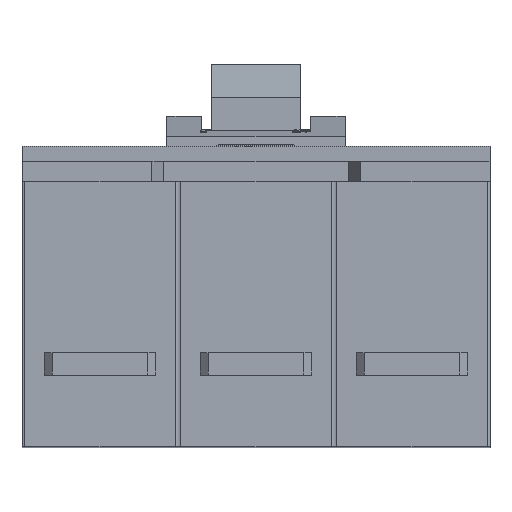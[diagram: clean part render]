
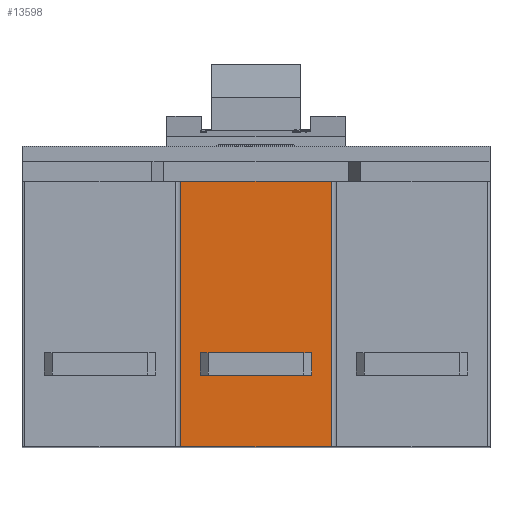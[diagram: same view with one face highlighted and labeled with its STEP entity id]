
A CAD part, top view. The second image highlights one B-rep face of the part: STEP entity #13598.
In plain terms, the highlighted planar face has unit normal (0, 0, 1).
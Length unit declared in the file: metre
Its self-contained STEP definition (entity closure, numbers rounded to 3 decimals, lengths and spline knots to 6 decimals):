
#202=FACE_BOUND('',#2001,.T.);
#1157=FACE_OUTER_BOUND('',#2000,.T.);
#2000=EDGE_LOOP('',(#12065,#12066,#12067,#12068));
#2001=EDGE_LOOP('',(#12069,#12070,#12071,#12072));
#3612=LINE('',#21678,#5300);
#3619=LINE('',#21692,#5307);
#3627=LINE('',#21708,#5315);
#3629=LINE('',#21711,#5317);
#3665=LINE('',#21803,#5353);
#3667=LINE('',#21807,#5355);
#3668=LINE('',#21809,#5356);
#3669=LINE('',#21810,#5357);
#5300=VECTOR('',#17810,0.05);
#5307=VECTOR('',#17819,0.01);
#5315=VECTOR('',#17835,0.01);
#5317=VECTOR('',#17839,0.05);
#5353=VECTOR('',#17923,0.119);
#5355=VECTOR('',#17927,0.0674);
#5356=VECTOR('',#17928,0.119);
#5357=VECTOR('',#17929,0.0674);
#6596=VERTEX_POINT('',#21676);
#6597=VERTEX_POINT('',#21677);
#6603=VERTEX_POINT('',#21691);
#6607=VERTEX_POINT('',#21707);
#6638=VERTEX_POINT('',#21800);
#6639=VERTEX_POINT('',#21802);
#6640=VERTEX_POINT('',#21806);
#6641=VERTEX_POINT('',#21808);
#8418=EDGE_CURVE('',#6596,#6597,#3612,.T.);
#8425=EDGE_CURVE('',#6603,#6596,#3619,.T.);
#8433=EDGE_CURVE('',#6607,#6597,#3627,.T.);
#8435=EDGE_CURVE('',#6603,#6607,#3629,.T.);
#8479=EDGE_CURVE('',#6639,#6638,#3665,.T.);
#8481=EDGE_CURVE('',#6640,#6638,#3667,.T.);
#8482=EDGE_CURVE('',#6641,#6640,#3668,.T.);
#8483=EDGE_CURVE('',#6641,#6639,#3669,.T.);
#12065=ORIENTED_EDGE('',*,*,#8481,.F.);
#12066=ORIENTED_EDGE('',*,*,#8482,.F.);
#12067=ORIENTED_EDGE('',*,*,#8483,.T.);
#12068=ORIENTED_EDGE('',*,*,#8479,.T.);
#12069=ORIENTED_EDGE('',*,*,#8425,.T.);
#12070=ORIENTED_EDGE('',*,*,#8418,.T.);
#12071=ORIENTED_EDGE('',*,*,#8433,.F.);
#12072=ORIENTED_EDGE('',*,*,#8435,.F.);
#12877=PLANE('',#14510);
#13598=ADVANCED_FACE('',(#1157,#202),#12877,.T.);
#14510=AXIS2_PLACEMENT_3D('',#21805,#17925,#17926);
#17810=DIRECTION('',(-1.,0.,0.));
#17819=DIRECTION('',(0.,-1.,0.));
#17835=DIRECTION('',(0.,-1.,0.));
#17839=DIRECTION('',(-1.,0.,0.));
#17923=DIRECTION('',(0.,1.,0.));
#17925=DIRECTION('center_axis',(0.,0.,1.));
#17926=DIRECTION('ref_axis',(1.,0.,0.));
#17927=DIRECTION('',(1.,0.,0.));
#17928=DIRECTION('',(0.,1.,0.));
#17929=DIRECTION('',(1.,0.,0.));
#21676=CARTESIAN_POINT('',(0.025,0.032,0.16));
#21677=CARTESIAN_POINT('',(-0.025,0.032,0.16));
#21678=CARTESIAN_POINT('',(0.025,0.032,0.16));
#21691=CARTESIAN_POINT('',(0.025,0.042,0.16));
#21692=CARTESIAN_POINT('',(0.025,0.042,0.16));
#21707=CARTESIAN_POINT('',(-0.025,0.042,0.16));
#21708=CARTESIAN_POINT('',(-0.025,0.042,0.16));
#21711=CARTESIAN_POINT('',(0.025,0.042,0.16));
#21800=CARTESIAN_POINT('',(0.0337,0.119,0.16));
#21802=CARTESIAN_POINT('',(0.0337,0.,0.16));
#21803=CARTESIAN_POINT('',(0.0337,0.,0.16));
#21805=CARTESIAN_POINT('Origin',(-0.105,0.,0.16));
#21806=CARTESIAN_POINT('',(-0.0337,0.119,0.16));
#21807=CARTESIAN_POINT('',(-0.0337,0.119,0.16));
#21808=CARTESIAN_POINT('',(-0.0337,0.,0.16));
#21809=CARTESIAN_POINT('',(-0.0337,0.,0.16));
#21810=CARTESIAN_POINT('',(-0.0337,0.,0.16));
